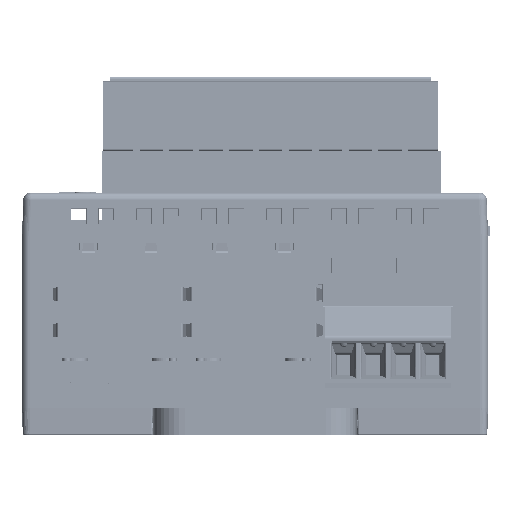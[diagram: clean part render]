
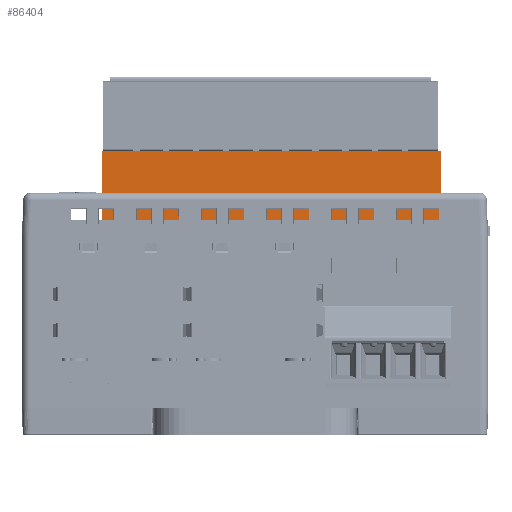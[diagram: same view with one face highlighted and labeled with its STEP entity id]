
A CAD part, front view. The second image highlights one B-rep face of the part: STEP entity #86404.
In plain terms, the highlighted planar face has unit normal (0, -1, 0).
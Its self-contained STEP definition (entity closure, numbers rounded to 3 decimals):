
#2373=DIRECTION('',(1.,0.,0.));
#2374=VECTOR('',#2373,43.3);
#2375=CARTESIAN_POINT('',(-19.55,-19.15,27.5));
#2376=LINE('',#2375,#2374);
#2801=DIRECTION('',(0.,0.,-1.));
#2802=VECTOR('',#2801,8.8);
#2803=CARTESIAN_POINT('',(23.75,-19.15,36.3));
#2804=LINE('',#2803,#2802);
#2809=DIRECTION('',(0.,0.,-1.));
#2810=VECTOR('',#2809,8.8);
#2811=CARTESIAN_POINT('',(-19.55,-19.15,36.3));
#2812=LINE('',#2811,#2810);
#2813=DIRECTION('',(-1.,0.,0.));
#2814=VECTOR('',#2813,0.2);
#2815=CARTESIAN_POINT('',(-19.35,-19.15,36.3));
#2816=LINE('',#2815,#2814);
#2817=DIRECTION('',(-1.,0.,0.));
#2818=VECTOR('',#2817,0.834);
#2819=CARTESIAN_POINT('',(-14.728,-19.15,36.3));
#2820=LINE('',#2819,#2818);
#2821=DIRECTION('',(-1.,0.,0.));
#2822=VECTOR('',#2821,0.834);
#2823=CARTESIAN_POINT('',(-10.918,-19.15,36.3));
#2824=LINE('',#2823,#2822);
#2825=DIRECTION('',(-1.,0.,0.));
#2826=VECTOR('',#2825,0.834);
#2827=CARTESIAN_POINT('',(-7.108,-19.15,36.3));
#2828=LINE('',#2827,#2826);
#2829=DIRECTION('',(-1.,0.,0.));
#2830=VECTOR('',#2829,0.834);
#2831=CARTESIAN_POINT('',(-3.298,-19.15,36.3));
#2832=LINE('',#2831,#2830);
#2833=DIRECTION('',(-1.,0.,0.));
#2834=VECTOR('',#2833,0.834);
#2835=CARTESIAN_POINT('',(0.512,-19.15,36.3));
#2836=LINE('',#2835,#2834);
#2837=DIRECTION('',(-1.,0.,0.));
#2838=VECTOR('',#2837,0.834);
#2839=CARTESIAN_POINT('',(4.322,-19.15,36.3));
#2840=LINE('',#2839,#2838);
#2841=DIRECTION('',(-1.,0.,0.));
#2842=VECTOR('',#2841,0.834);
#2843=CARTESIAN_POINT('',(8.132,-19.15,36.3));
#2844=LINE('',#2843,#2842);
#2845=DIRECTION('',(-1.,0.,0.));
#2846=VECTOR('',#2845,0.834);
#2847=CARTESIAN_POINT('',(11.942,-19.15,36.3));
#2848=LINE('',#2847,#2846);
#2849=DIRECTION('',(-1.,0.,0.));
#2850=VECTOR('',#2849,0.834);
#2851=CARTESIAN_POINT('',(15.752,-19.15,36.3));
#2852=LINE('',#2851,#2850);
#2853=DIRECTION('',(-1.,0.,0.));
#2854=VECTOR('',#2853,0.834);
#2855=CARTESIAN_POINT('',(19.562,-19.15,36.3));
#2856=LINE('',#2855,#2854);
#2857=DIRECTION('',(-1.,0.,0.));
#2858=VECTOR('',#2857,0.4);
#2859=CARTESIAN_POINT('',(23.75,-19.15,36.3));
#2860=LINE('',#2859,#2858);
#3001=DIRECTION('',(-1.,0.,0.));
#3002=VECTOR('',#3001,3.788);
#3003=CARTESIAN_POINT('',(23.35,-19.15,36.3));
#3004=LINE('',#3003,#3002);
#3009=DIRECTION('',(-1.,0.,0.));
#3010=VECTOR('',#3009,3.788);
#3011=CARTESIAN_POINT('',(-15.562,-19.15,36.3));
#3012=LINE('',#3011,#3010);
#3737=DIRECTION('',(-1.,0.,0.));
#3738=VECTOR('',#3737,2.976);
#3739=CARTESIAN_POINT('',(18.728,-19.15,36.3));
#3740=LINE('',#3739,#3738);
#4190=DIRECTION('',(-1.,0.,0.));
#4191=VECTOR('',#4190,2.976);
#4192=CARTESIAN_POINT('',(14.918,-19.15,36.3));
#4193=LINE('',#4192,#4191);
#4643=DIRECTION('',(-1.,0.,0.));
#4644=VECTOR('',#4643,2.976);
#4645=CARTESIAN_POINT('',(11.108,-19.15,36.3));
#4646=LINE('',#4645,#4644);
#5096=DIRECTION('',(-1.,0.,0.));
#5097=VECTOR('',#5096,2.976);
#5098=CARTESIAN_POINT('',(7.298,-19.15,36.3));
#5099=LINE('',#5098,#5097);
#5549=DIRECTION('',(-1.,0.,0.));
#5550=VECTOR('',#5549,2.976);
#5551=CARTESIAN_POINT('',(3.488,-19.15,36.3));
#5552=LINE('',#5551,#5550);
#6002=DIRECTION('',(-1.,0.,0.));
#6003=VECTOR('',#6002,2.976);
#6004=CARTESIAN_POINT('',(-0.322,-19.15,36.3));
#6005=LINE('',#6004,#6003);
#6455=DIRECTION('',(-1.,0.,0.));
#6456=VECTOR('',#6455,2.976);
#6457=CARTESIAN_POINT('',(-4.132,-19.15,36.3));
#6458=LINE('',#6457,#6456);
#6908=DIRECTION('',(-1.,0.,0.));
#6909=VECTOR('',#6908,2.976);
#6910=CARTESIAN_POINT('',(-7.942,-19.15,36.3));
#6911=LINE('',#6910,#6909);
#7361=DIRECTION('',(-1.,0.,0.));
#7362=VECTOR('',#7361,2.976);
#7363=CARTESIAN_POINT('',(-11.752,-19.15,36.3));
#7364=LINE('',#7363,#7362);
#66720=CARTESIAN_POINT('',(-19.55,-19.15,36.3));
#66722=VERTEX_POINT('',#66720);
#66726=CARTESIAN_POINT('',(23.75,-19.15,36.3));
#66727=VERTEX_POINT('',#66726);
#82696=CARTESIAN_POINT('',(-19.55,-19.15,27.5));
#82698=VERTEX_POINT('',#82696);
#82699=CARTESIAN_POINT('',(23.75,-19.15,27.5));
#82700=VERTEX_POINT('',#82699);
#82703=CARTESIAN_POINT('',(-19.35,-19.15,36.3));
#82705=VERTEX_POINT('',#82703);
#82707=CARTESIAN_POINT('',(23.35,-19.15,36.3));
#82709=VERTEX_POINT('',#82707);
#82755=CARTESIAN_POINT('',(19.562,-19.15,36.3));
#82756=VERTEX_POINT('',#82755);
#82757=CARTESIAN_POINT('',(-15.562,-19.15,36.3));
#82758=VERTEX_POINT('',#82757);
#82896=CARTESIAN_POINT('',(18.728,-19.15,36.3));
#82898=VERTEX_POINT('',#82896);
#82900=CARTESIAN_POINT('',(15.752,-19.15,36.3));
#82902=VERTEX_POINT('',#82900);
#82904=CARTESIAN_POINT('',(14.918,-19.15,36.3));
#82906=VERTEX_POINT('',#82904);
#82908=CARTESIAN_POINT('',(11.942,-19.15,36.3));
#82910=VERTEX_POINT('',#82908);
#82912=CARTESIAN_POINT('',(11.108,-19.15,36.3));
#82914=VERTEX_POINT('',#82912);
#82916=CARTESIAN_POINT('',(8.132,-19.15,36.3));
#82918=VERTEX_POINT('',#82916);
#82920=CARTESIAN_POINT('',(7.298,-19.15,36.3));
#82922=VERTEX_POINT('',#82920);
#82924=CARTESIAN_POINT('',(4.322,-19.15,36.3));
#82926=VERTEX_POINT('',#82924);
#82928=CARTESIAN_POINT('',(3.488,-19.15,36.3));
#82930=VERTEX_POINT('',#82928);
#82932=CARTESIAN_POINT('',(0.512,-19.15,36.3));
#82934=VERTEX_POINT('',#82932);
#82936=CARTESIAN_POINT('',(-0.322,-19.15,36.3));
#82938=VERTEX_POINT('',#82936);
#82940=CARTESIAN_POINT('',(-3.298,-19.15,36.3));
#82942=VERTEX_POINT('',#82940);
#82944=CARTESIAN_POINT('',(-4.132,-19.15,36.3));
#82946=VERTEX_POINT('',#82944);
#82948=CARTESIAN_POINT('',(-7.108,-19.15,36.3));
#82950=VERTEX_POINT('',#82948);
#82952=CARTESIAN_POINT('',(-7.942,-19.15,36.3));
#82954=VERTEX_POINT('',#82952);
#82956=CARTESIAN_POINT('',(-10.918,-19.15,36.3));
#82958=VERTEX_POINT('',#82956);
#82960=CARTESIAN_POINT('',(-11.752,-19.15,36.3));
#82962=VERTEX_POINT('',#82960);
#82964=CARTESIAN_POINT('',(-14.728,-19.15,36.3));
#82966=VERTEX_POINT('',#82964);
#86348=CARTESIAN_POINT('',(2.1,-19.15,31.7));
#86349=DIRECTION('',(0.,1.,0.));
#86350=DIRECTION('',(1.,0.,0.));
#86351=AXIS2_PLACEMENT_3D('',#86348,#86349,#86350);
#86352=PLANE('',#86351);
#86353=ORIENTED_EDGE('',*,*,#86268,.F.);
#86354=ORIENTED_EDGE('',*,*,#86294,.F.);
#86356=ORIENTED_EDGE('',*,*,#86355,.F.);
#86358=ORIENTED_EDGE('',*,*,#86357,.F.);
#86360=ORIENTED_EDGE('',*,*,#86359,.F.);
#86362=ORIENTED_EDGE('',*,*,#86361,.F.);
#86364=ORIENTED_EDGE('',*,*,#86363,.F.);
#86366=ORIENTED_EDGE('',*,*,#86365,.F.);
#86368=ORIENTED_EDGE('',*,*,#86367,.F.);
#86370=ORIENTED_EDGE('',*,*,#86369,.F.);
#86372=ORIENTED_EDGE('',*,*,#86371,.F.);
#86374=ORIENTED_EDGE('',*,*,#86373,.F.);
#86376=ORIENTED_EDGE('',*,*,#86375,.F.);
#86378=ORIENTED_EDGE('',*,*,#86377,.F.);
#86380=ORIENTED_EDGE('',*,*,#86379,.F.);
#86382=ORIENTED_EDGE('',*,*,#86381,.F.);
#86384=ORIENTED_EDGE('',*,*,#86383,.F.);
#86386=ORIENTED_EDGE('',*,*,#86385,.F.);
#86388=ORIENTED_EDGE('',*,*,#86387,.F.);
#86390=ORIENTED_EDGE('',*,*,#86389,.F.);
#86392=ORIENTED_EDGE('',*,*,#86391,.F.);
#86394=ORIENTED_EDGE('',*,*,#86393,.F.);
#86396=ORIENTED_EDGE('',*,*,#86395,.F.);
#86398=ORIENTED_EDGE('',*,*,#86397,.F.);
#86400=ORIENTED_EDGE('',*,*,#86399,.F.);
#86401=ORIENTED_EDGE('',*,*,#86333,.T.);
#86402=EDGE_LOOP('',(#86353,#86354,#86356,#86358,#86360,#86362,#86364,#86366,
#86368,#86370,#86372,#86374,#86376,#86378,#86380,#86382,#86384,#86386,#86388,
#86390,#86392,#86394,#86396,#86398,#86400,#86401));
#86403=FACE_OUTER_BOUND('',#86402,.F.);
#86404=ADVANCED_FACE('',(#86403),#86352,.F.);
#86268=EDGE_CURVE('',#82698,#82700,#2376,.T.);
#86294=EDGE_CURVE('',#66722,#82698,#2812,.T.);
#86333=EDGE_CURVE('',#66727,#82700,#2804,.T.);
#86355=EDGE_CURVE('',#82705,#66722,#2816,.T.);
#86357=EDGE_CURVE('',#82758,#82705,#3012,.T.);
#86359=EDGE_CURVE('',#82966,#82758,#2820,.T.);
#86361=EDGE_CURVE('',#82962,#82966,#7364,.T.);
#86363=EDGE_CURVE('',#82958,#82962,#2824,.T.);
#86365=EDGE_CURVE('',#82954,#82958,#6911,.T.);
#86367=EDGE_CURVE('',#82950,#82954,#2828,.T.);
#86369=EDGE_CURVE('',#82946,#82950,#6458,.T.);
#86371=EDGE_CURVE('',#82942,#82946,#2832,.T.);
#86373=EDGE_CURVE('',#82938,#82942,#6005,.T.);
#86375=EDGE_CURVE('',#82934,#82938,#2836,.T.);
#86377=EDGE_CURVE('',#82930,#82934,#5552,.T.);
#86379=EDGE_CURVE('',#82926,#82930,#2840,.T.);
#86381=EDGE_CURVE('',#82922,#82926,#5099,.T.);
#86383=EDGE_CURVE('',#82918,#82922,#2844,.T.);
#86385=EDGE_CURVE('',#82914,#82918,#4646,.T.);
#86387=EDGE_CURVE('',#82910,#82914,#2848,.T.);
#86389=EDGE_CURVE('',#82906,#82910,#4193,.T.);
#86391=EDGE_CURVE('',#82902,#82906,#2852,.T.);
#86393=EDGE_CURVE('',#82898,#82902,#3740,.T.);
#86395=EDGE_CURVE('',#82756,#82898,#2856,.T.);
#86397=EDGE_CURVE('',#82709,#82756,#3004,.T.);
#86399=EDGE_CURVE('',#66727,#82709,#2860,.T.);
